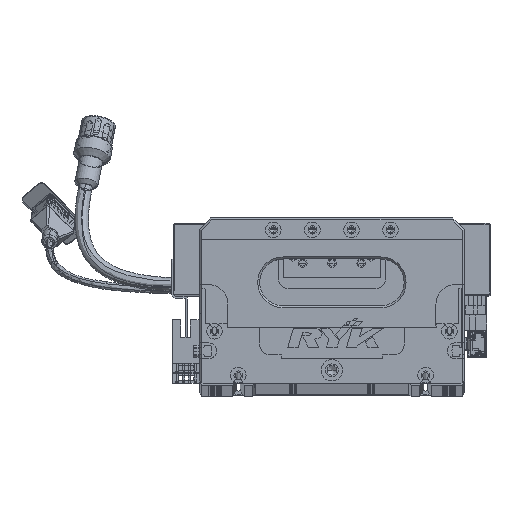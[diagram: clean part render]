
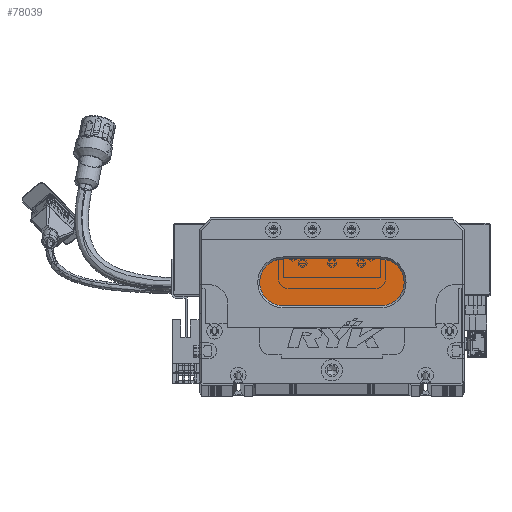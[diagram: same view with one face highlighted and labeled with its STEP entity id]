
A CAD part, top view. The second image highlights one B-rep face of the part: STEP entity #78039.
In plain terms, the highlighted planar face has unit normal (0, 0, 1) as drawn and (0, 0, -1) by its records, which use the part's own axes.
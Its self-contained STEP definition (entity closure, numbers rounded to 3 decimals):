
#5782 = VERTEX_POINT ( 'NONE', #18166 ) ;
#11053 = ORIENTED_EDGE ( 'NONE', *, *, #99350, .T. ) ;
#11982 = VERTEX_POINT ( 'NONE', #104857 ) ;
#12256 = VECTOR ( 'NONE', #18181, 1000. ) ;
#17256 = CARTESIAN_POINT ( 'NONE',  ( 93., 52., 13. ) ) ;
#18166 = CARTESIAN_POINT ( 'NONE',  ( 43., 40., 13. ) ) ;
#18181 = DIRECTION ( 'NONE',  ( -1., 0., 0. ) ) ;
#20553 = CARTESIAN_POINT ( 'NONE',  ( 43., 52., 13. ) ) ;
#38736 = AXIS2_PLACEMENT_3D ( 'NONE', #17256, #99784, #123924 ) ;
#39775 = ORIENTED_EDGE ( 'NONE', *, *, #133663, .T. ) ;
#47722 = VECTOR ( 'NONE', #73777, 1000. ) ;
#54320 = CARTESIAN_POINT ( 'NONE',  ( 93., 40., 13. ) ) ;
#54812 = LINE ( 'NONE', #54320, #12256 ) ;
#57260 = EDGE_LOOP ( 'NONE', ( #105875, #87425, #67834, #39775, #11053 ) ) ;
#58463 = DIRECTION ( 'NONE',  ( 0., 0., -1. ) ) ;
#58555 = EDGE_CURVE ( 'NONE', #5782, #130172, #121376, .T. ) ;
#62968 = AXIS2_PLACEMENT_3D ( 'NONE', #94500, #58463, #97052 ) ;
#63944 = CARTESIAN_POINT ( 'NONE',  ( 93., 64., 13. ) ) ;
#67834 = ORIENTED_EDGE ( 'NONE', *, *, #58555, .T. ) ;
#69356 = DIRECTION ( 'NONE',  ( -1., 0., 0. ) ) ;
#71483 = VERTEX_POINT ( 'NONE', #122855 ) ;
#73777 = DIRECTION ( 'NONE',  ( 1., 0., 0. ) ) ;
#77676 = AXIS2_PLACEMENT_3D ( 'NONE', #20553, #101558, #78844 ) ;
#78039 = ADVANCED_FACE ( 'NONE', ( #119313 ), #123417, .T. ) ;
#78844 = DIRECTION ( 'NONE',  ( -1., 0., 0. ) ) ;
#80184 = CARTESIAN_POINT ( 'NONE',  ( 31., 52., 13. ) ) ;
#86449 = LINE ( 'NONE', #63944, #47722 ) ;
#87425 = ORIENTED_EDGE ( 'NONE', *, *, #108111, .T. ) ;
#94500 = CARTESIAN_POINT ( 'NONE',  ( 93., 52., 13. ) ) ;
#97052 = DIRECTION ( 'NONE',  ( -1., 0., 0. ) ) ;
#99350 = EDGE_CURVE ( 'NONE', #11982, #99608, #86449, .T. ) ;
#99608 = VERTEX_POINT ( 'NONE', #138041 ) ;
#99784 = DIRECTION ( 'NONE',  ( 0., 0., -1. ) ) ;
#101495 = CIRCLE ( 'NONE', #62968, 12. ) ;
#101558 = DIRECTION ( 'NONE',  ( 0., 0., -1. ) ) ;
#104857 = CARTESIAN_POINT ( 'NONE',  ( 43., 64., 13. ) ) ;
#105875 = ORIENTED_EDGE ( 'NONE', *, *, #105893, .T. ) ;
#105893 = EDGE_CURVE ( 'NONE', #99608, #71483, #101495, .T. ) ;
#107327 = CIRCLE ( 'NONE', #130045, 12. ) ;
#108111 = EDGE_CURVE ( 'NONE', #71483, #5782, #54812, .T. ) ;
#119313 = FACE_OUTER_BOUND ( 'NONE', #57260, .T. ) ;
#121376 = CIRCLE ( 'NONE', #77676, 12. ) ;
#122855 = CARTESIAN_POINT ( 'NONE',  ( 93., 40., 13. ) ) ;
#123417 = PLANE ( 'NONE',  #38736 ) ;
#123924 = DIRECTION ( 'NONE',  ( -1., 0., 0. ) ) ;
#127531 = CARTESIAN_POINT ( 'NONE',  ( 43., 52., 13. ) ) ;
#130045 = AXIS2_PLACEMENT_3D ( 'NONE', #127531, #139334, #69356 ) ;
#130172 = VERTEX_POINT ( 'NONE', #80184 ) ;
#133663 = EDGE_CURVE ( 'NONE', #130172, #11982, #107327, .T. ) ;
#138041 = CARTESIAN_POINT ( 'NONE',  ( 93., 64., 13. ) ) ;
#139334 = DIRECTION ( 'NONE',  ( 0., 0., -1. ) ) ;
